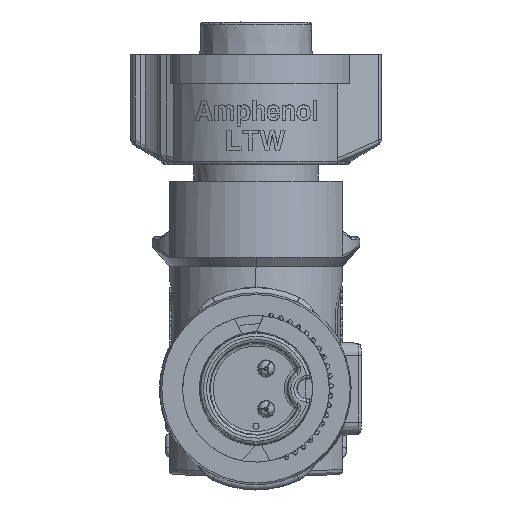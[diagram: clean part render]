
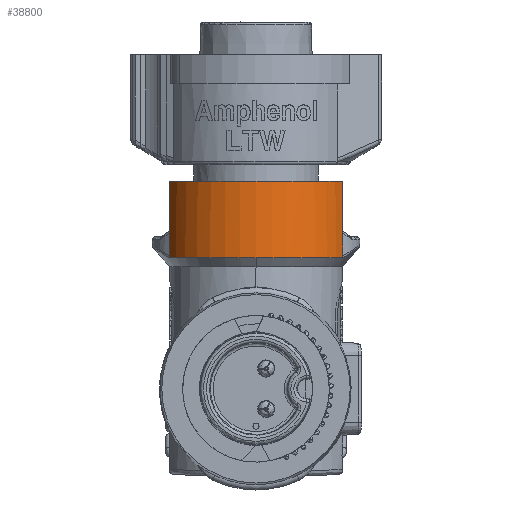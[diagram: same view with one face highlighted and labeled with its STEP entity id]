
A CAD part, left-side view. The second image highlights one B-rep face of the part: STEP entity #38800.
In plain terms, the highlighted cylindrical face has radius 9.35 mm (diameter 18.7 mm), a partial arc.
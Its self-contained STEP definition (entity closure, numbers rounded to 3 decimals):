
#6246=CARTESIAN_POINT('',(138.525,8.681,13.));
#6317=CARTESIAN_POINT('',(138.328,8.6,15.5));
#6324=CARTESIAN_POINT('',(138.328,8.6,13.148));
#6381=CARTESIAN_POINT('',(138.525,-8.681,13.));
#6408=CARTESIAN_POINT('',(138.525,-8.681,13.));
#6409=CARTESIAN_POINT('',(138.512,-8.676,13.));
#6410=CARTESIAN_POINT('',(138.487,-8.666,13.001));
#6411=CARTESIAN_POINT('',(138.454,-8.653,13.006));
#6412=CARTESIAN_POINT('',(138.425,-8.641,13.014));
#6413=CARTESIAN_POINT('',(138.401,-8.631,13.024));
#6414=CARTESIAN_POINT('',(138.381,-8.622,13.037));
#6415=CARTESIAN_POINT('',(138.364,-8.616,13.051));
#6416=CARTESIAN_POINT('',(138.351,-8.61,13.066));
#6417=CARTESIAN_POINT('',(138.341,-8.606,13.083));
#6418=CARTESIAN_POINT('',(138.334,-8.603,13.102));
#6419=CARTESIAN_POINT('',(138.329,-8.6,13.124));
#6420=CARTESIAN_POINT('',(138.328,-8.6,13.14));
#6421=CARTESIAN_POINT('',(138.328,-8.6,13.148));
#6464=CARTESIAN_POINT('',(138.328,-8.6,13.148));
#6471=CARTESIAN_POINT('',(138.328,-8.6,15.5));
#6625=DIRECTION('',(0.,0.,1.));
#6626=VECTOR('',#6625,5.1);
#6627=CARTESIAN_POINT('',(138.328,-8.6,15.5));
#6628=LINE('',#6627,#6626);
#6629=DIRECTION('',(0.,0.,1.));
#6630=VECTOR('',#6629,2.352);
#6631=CARTESIAN_POINT('',(138.328,-8.6,13.148));
#6632=LINE('',#6631,#6630);
#6633=CARTESIAN_POINT('',(141.997,0.,13.));
#6634=DIRECTION('',(0.,0.,-1.));
#6635=DIRECTION('',(-0.371,-0.928,0.));
#6636=AXIS2_PLACEMENT_3D('',#6633,#6634,#6635);
#6638=CARTESIAN_POINT('',(141.997,0.,13.));
#6639=DIRECTION('',(0.,0.,-1.));
#6640=DIRECTION('',(-1.,0.,0.));
#6641=AXIS2_PLACEMENT_3D('',#6638,#6639,#6640);
#6643=DIRECTION('',(0.,0.,1.));
#6644=VECTOR('',#6643,2.352);
#6645=CARTESIAN_POINT('',(138.328,8.6,13.148));
#6646=LINE('',#6645,#6644);
#6647=CARTESIAN_POINT('',(141.997,0.,20.6));
#6648=DIRECTION('',(0.,0.,1.));
#6649=DIRECTION('',(-0.392,0.92,0.));
#6650=AXIS2_PLACEMENT_3D('',#6647,#6648,#6649);
#6657=CARTESIAN_POINT('',(138.328,8.6,13.148));
#6658=CARTESIAN_POINT('',(138.328,8.6,13.14));
#6659=CARTESIAN_POINT('',(138.329,8.6,13.124));
#6660=CARTESIAN_POINT('',(138.334,8.603,13.102));
#6661=CARTESIAN_POINT('',(138.341,8.606,13.083));
#6662=CARTESIAN_POINT('',(138.351,8.61,13.066));
#6663=CARTESIAN_POINT('',(138.365,8.616,13.05));
#6664=CARTESIAN_POINT('',(138.381,8.622,13.036));
#6665=CARTESIAN_POINT('',(138.401,8.631,13.024));
#6666=CARTESIAN_POINT('',(138.425,8.641,13.014));
#6667=CARTESIAN_POINT('',(138.454,8.653,13.006));
#6668=CARTESIAN_POINT('',(138.487,8.666,13.001));
#6669=CARTESIAN_POINT('',(138.512,8.676,13.));
#6670=CARTESIAN_POINT('',(138.525,8.681,13.));
#6672=DIRECTION('',(0.,0.,-1.));
#6673=VECTOR('',#6672,5.1);
#6674=CARTESIAN_POINT('',(138.328,8.6,20.6));
#6675=LINE('',#6674,#6673);
#31995=CARTESIAN_POINT('',(132.647,0.,13.));
#31997=VERTEX_POINT('',#31995);
#32089=CARTESIAN_POINT('',(138.328,-8.6,20.6));
#32091=VERTEX_POINT('',#32089);
#32093=CARTESIAN_POINT('',(138.328,8.6,20.6));
#32095=VERTEX_POINT('',#32093);
#32625=VERTEX_POINT('',#6471);
#32628=VERTEX_POINT('',#6464);
#32630=VERTEX_POINT('',#6381);
#32637=VERTEX_POINT('',#6246);
#32638=VERTEX_POINT('',#6324);
#32639=VERTEX_POINT('',#6317);
#38781=CARTESIAN_POINT('',(141.997,0.,-10.27));
#38782=DIRECTION('',(0.,0.,1.));
#38783=DIRECTION('',(-1.,0.,0.));
#38784=AXIS2_PLACEMENT_3D('',#38781,#38782,#38783);
#38785=CYLINDRICAL_SURFACE('',#38784,9.35);
#38786=ORIENTED_EDGE('',*,*,#38543,.F.);
#38787=ORIENTED_EDGE('',*,*,#38527,.F.);
#38788=ORIENTED_EDGE('',*,*,#38476,.T.);
#38789=ORIENTED_EDGE('',*,*,#38352,.T.);
#38791=ORIENTED_EDGE('',*,*,#38790,.F.);
#38792=ORIENTED_EDGE('',*,*,#38433,.T.);
#38794=ORIENTED_EDGE('',*,*,#38793,.F.);
#38796=ORIENTED_EDGE('',*,*,#38795,.T.);
#38797=ORIENTED_EDGE('',*,*,#38774,.F.);
#38798=EDGE_LOOP('',(#38786,#38787,#38788,#38789,#38791,#38792,#38794,#38796,
#38797));
#38799=FACE_OUTER_BOUND('',#38798,.F.);
#38800=ADVANCED_FACE('',(#38799),#38785,.T.);
#6422=B_SPLINE_CURVE_WITH_KNOTS('',3,(#6408,#6409,#6410,#6411,#6412,#6413,#6414,
#6415,#6416,#6417,#6418,#6419,#6420,#6421),.UNSPECIFIED.,.F.,.F.,(4,1,1,1,1,1,1,
1,1,1,1,4),(0.,0.091,0.182,0.273,
0.364,0.455,0.545,0.636,
0.727,0.818,0.909,1.),.UNSPECIFIED.);
#6637=CIRCLE('',#6636,9.35);
#6642=CIRCLE('',#6641,9.35);
#6651=CIRCLE('',#6650,9.35);
#6671=B_SPLINE_CURVE_WITH_KNOTS('',3,(#6657,#6658,#6659,#6660,#6661,#6662,#6663,
#6664,#6665,#6666,#6667,#6668,#6669,#6670),.UNSPECIFIED.,.F.,.F.,(4,1,1,1,1,1,1,
1,1,1,1,4),(0.,0.091,0.182,0.273,
0.364,0.455,0.545,0.636,
0.727,0.818,0.909,1.),.UNSPECIFIED.);
#38352=EDGE_CURVE('',#31997,#32637,#6642,.T.);
#38433=EDGE_CURVE('',#32638,#32639,#6646,.T.);
#38476=EDGE_CURVE('',#32630,#31997,#6637,.T.);
#38527=EDGE_CURVE('',#32630,#32628,#6422,.T.);
#38543=EDGE_CURVE('',#32628,#32625,#6632,.T.);
#38774=EDGE_CURVE('',#32625,#32091,#6628,.T.);
#38790=EDGE_CURVE('',#32638,#32637,#6671,.T.);
#38793=EDGE_CURVE('',#32095,#32639,#6675,.T.);
#38795=EDGE_CURVE('',#32095,#32091,#6651,.T.);
